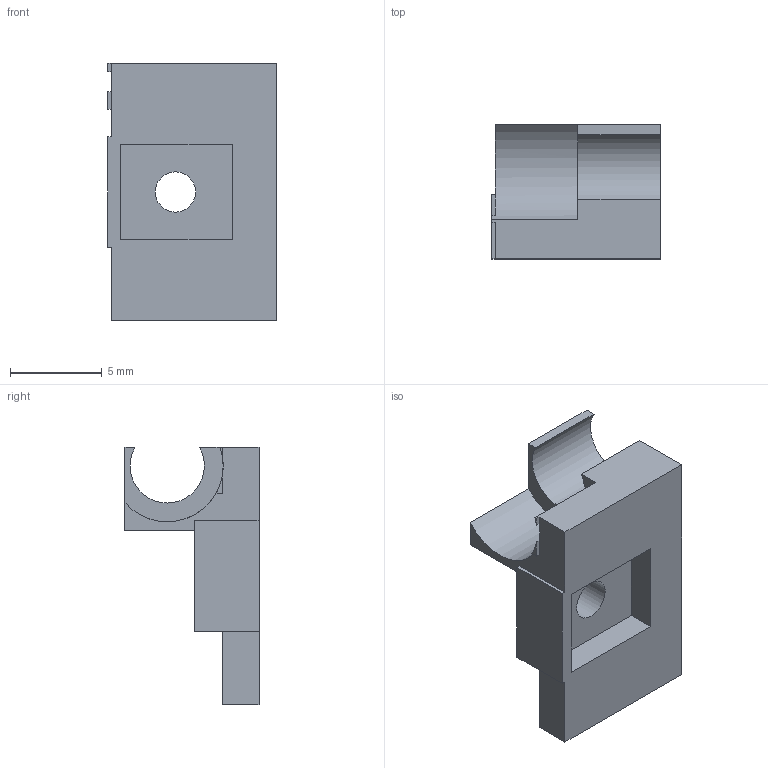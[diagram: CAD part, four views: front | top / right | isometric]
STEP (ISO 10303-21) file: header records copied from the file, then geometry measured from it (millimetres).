
FILE_DESCRIPTION(('Open CASCADE Model'),'2;1');
FILE_NAME('Open CASCADE Shape Model','2026-09-06T11:49:07',('Author'),( 'Open CASCADE'),'Open CASCADE STEP processor 7.8','build123d', 'Unknown');
FILE_SCHEMA(('AUTOMOTIVE_DESIGN { 1 0 10303 214 1 1 1 1 }'));
Length unit declared in the file: millimetre
Products named in the file (2): =>[0:1:1:2]; SOLID
Assembly tree (1 placements, depth 2):
  =>[0:1:1:2]
    SOLID
Bounding box: 9.2 x 7.3 x 14 mm (x, y, z)
Volume: 341.3 mm3; surface area: 550.8 mm2
Topology: 1 solids, 1 shells, 31 faces, 84 edges, 56 vertices
Faces by surface type: plane 28, cylinder 3
Full cylindrical faces by diameter (mm): 2.2 x1
Entity records: 2035 total; most frequent: CARTESIAN_POINT 433, DIRECTION 255, ORIENTED_EDGE 168, PCURVE 168, DEFINITIONAL_REPRESENTATION 168, LINE 166, VECTOR 166, EDGE_CURVE 84
